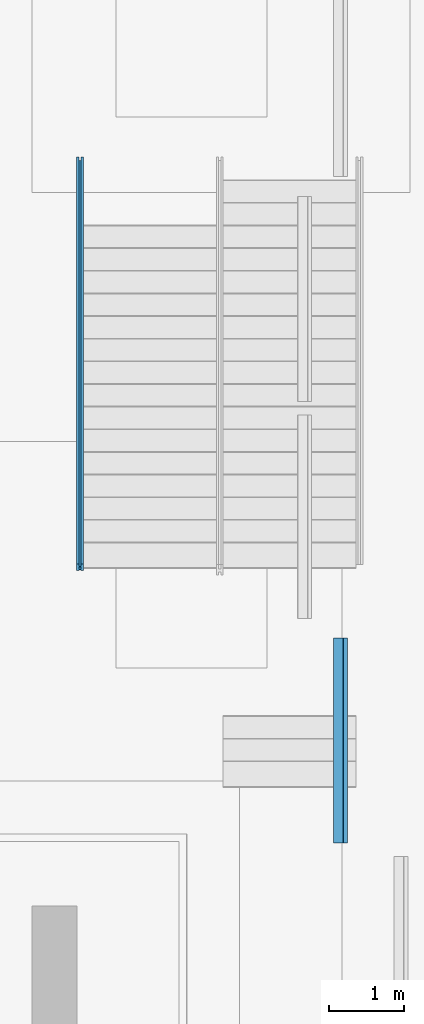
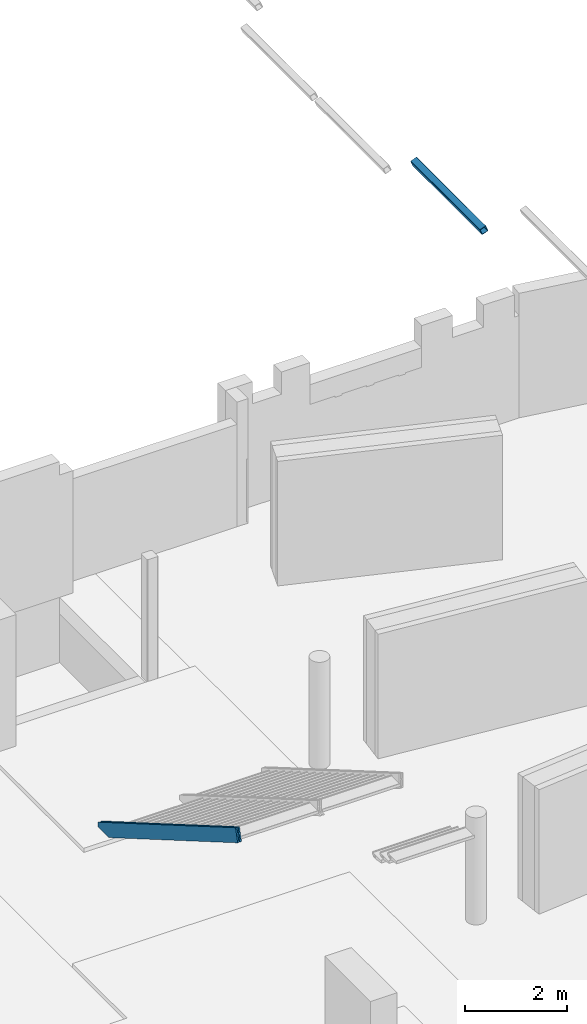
# One storey, part 23 of 42: 2 beams.
"""IFC2X3 building model written with IfcOpenShell, lengths in millimetres."""

from ifc_helpers import new_model, entity, si_unit, converted_unit, derived_unit, direction, frame, frame_2d, origin, place, context, subcontext, project, spatial, polyline, circle_curve, parameter, trimmed, segment, composite_curve, rectangle, outline, extrude, clip, halfspace, bounded_halfspace, source, transform, mapped, material, type_object, type_shapes, element, save


model = new_model("IFC2X3")

# Units and contexts
model_context = context("Model", 3, precision=0.01, world=origin(), true_north=direction((6.12303176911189e-17, 1.0)))
body_context = subcontext(model_context, "Body", "Model", "MODEL_VIEW")
ifc_project = project(units=[si_unit("LENGTHUNIT", "METRE", prefix="MILLI"), si_unit("AREAUNIT", "SQUARE_METRE", prefix="MILLI"), si_unit("VOLUMEUNIT", "CUBIC_METRE"), converted_unit("PLANEANGLEUNIT", "DEGREE", entity("IfcRatioMeasure", 0.0174532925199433), si_unit("PLANEANGLEUNIT", "RADIAN"), dimensions=[0, 0, 0, 0, 0, 0, 0]), si_unit("MASSUNIT", "GRAM", prefix="KILO"), derived_unit("MASSDENSITYUNIT", [(si_unit("MASSUNIT", "GRAM", prefix="KILO"), 1), (si_unit("LENGTHUNIT", "METRE"), -3)]), derived_unit("MOMENTOFINERTIAUNIT", [(si_unit("LENGTHUNIT", "METRE"), 4)]), si_unit("TIMEUNIT", "SECOND"), si_unit("FREQUENCYUNIT", "HERTZ"), si_unit("THERMODYNAMICTEMPERATUREUNIT", "DEGREE_CELSIUS"), derived_unit("THERMALTRANSMITTANCEUNIT", [(si_unit("MASSUNIT", "GRAM", prefix="KILO"), 1), (si_unit("THERMODYNAMICTEMPERATUREUNIT", "KELVIN"), -1), (si_unit("TIMEUNIT", "SECOND"), -3)]), derived_unit("VOLUMETRICFLOWRATEUNIT", [(si_unit("LENGTHUNIT", "METRE"), 3), (si_unit("TIMEUNIT", "SECOND"), -1)]), si_unit("ELECTRICCURRENTUNIT", "AMPERE"), si_unit("ELECTRICVOLTAGEUNIT", "VOLT"), si_unit("POWERUNIT", "WATT"), si_unit("FORCEUNIT", "NEWTON", prefix="KILO"), si_unit("ILLUMINANCEUNIT", "LUX"), si_unit("LUMINOUSFLUXUNIT", "LUMEN"), si_unit("LUMINOUSINTENSITYUNIT", "CANDELA"), derived_unit("USERDEFINED", [(si_unit("MASSUNIT", "GRAM", prefix="KILO"), -1), (si_unit("LENGTHUNIT", "METRE"), -2), (si_unit("TIMEUNIT", "SECOND"), 3), (si_unit("LUMINOUSFLUXUNIT", "LUMEN"), 1)]), derived_unit("LINEARVELOCITYUNIT", [(si_unit("LENGTHUNIT", "METRE"), 1), (si_unit("TIMEUNIT", "SECOND"), -1)]), si_unit("PRESSUREUNIT", "PASCAL"), derived_unit("USERDEFINED", [(si_unit("LENGTHUNIT", "METRE"), -2), (si_unit("MASSUNIT", "GRAM", prefix="KILO"), 1), (si_unit("TIMEUNIT", "SECOND"), -2)]), derived_unit("LINEARFORCEUNIT", [(si_unit("MASSUNIT", "GRAM", prefix="KILO"), 1), (si_unit("LENGTHUNIT", "METRE"), 1), (si_unit("TIMEUNIT", "SECOND"), -2), (si_unit("LENGTHUNIT", "METRE"), -1)]), derived_unit("PLANARFORCEUNIT", [(si_unit("MASSUNIT", "GRAM", prefix="KILO"), 1), (si_unit("LENGTHUNIT", "METRE"), 1), (si_unit("TIMEUNIT", "SECOND"), -2), (si_unit("LENGTHUNIT", "METRE"), -2)])], contexts=[model_context])

# Site, building, storey
site_placement = place(None, origin())
site = spatial("IfcSite", under=ifc_project, at=site_placement, Name="Theater aan de Parade", CompositionType="ELEMENT")
building_placement = place(site_placement, origin())
building = spatial("IfcBuilding", under=site, at=building_placement, Name="Theater aan de Parade", CompositionType="ELEMENT")
storey_placement = place(building_placement, frame((0.0, 0.0, -3300.0)))
storey = spatial("IfcBuildingStorey", under=building, at=storey_placement, Name="-1 kelder", CompositionType="ELEMENT", Elevation=-3300.0)

# Beams
ifc_material = material(Name="00_PBT_MAT_staal_S355")
beam_type_1 = type_object("IfcBeamType", Name="28_PBT_SF_staal_trapboom_glas:trapboom", PredefinedType="BEAM", material=ifc_material)
shared_shape = source(origin(), body_context, "Body", "Clipping", [
    clip(clip(extrude(rectangle(XDim=19.9999999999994, YDim=30.0000000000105, at=frame_2d((3.89732690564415e-12, 8.66329230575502e-12), x_axis=(1.0, 0.0))), frame((37491.8281932, 35434.1848212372, -3228.64474830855), z_axis=(0.0, -0.864474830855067, 0.502676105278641), x_axis=(0.0, -0.502676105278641, -0.864474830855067)), (0.0, 0.0, 1.0), 5928.67824857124), halfspace(frame((46011.8281932, 35779.080900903, -3220.0), z_axis=(0.0, 0.0, -1.0), x_axis=(-1.0, 0.0, 0.0)), False)), halfspace(frame((39781.7063235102, 32154.8185242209, 6549.86557927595), z_axis=(0.0, -0.965156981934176, 0.261671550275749), x_axis=(0.0, 0.261671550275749, 0.965156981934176)), False)),
    clip(clip(clip(extrude(rectangle(XDim=309.999999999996, YDim=30.0000000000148, at=frame_2d((-2.16626716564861e-12, 2.50111042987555e-12), x_axis=(0.0, 1.0))), frame((37461.8281932, 35751.0093632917, -3268.27589271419), z_axis=(0.0, -0.864474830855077, 0.502676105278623), x_axis=(1.0, 0.0, 0.0)), (0.0, 0.0, 1.0), 6294.87310159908), halfspace(frame((39781.7063235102, 32154.8185242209, 6549.86557927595), z_axis=(0.0, -0.965156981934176, 0.261671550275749), x_axis=(0.0, 0.261671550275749, 0.965156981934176)), False)), bounded_halfspace(frame((46011.8281932, 35779.080900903, -3220.0), z_axis=(0.0, 0.0, -1.0), x_axis=(-1.0, 0.0, 0.0)), False, frame((37461.8281932, 35751.0093632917, -3268.27589271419), z_axis=(0.0, -0.864474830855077, 0.502676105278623), x_axis=(1.0, 0.0, 0.0)), polyline([(-15.0, 55.844185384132), (15.0, 55.844185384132), (15.0, -155.0), (-15.0, -155.0), (-15.0, 55.844185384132)]))), bounded_halfspace(frame((46011.8281932, 35779.080900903, -1469.07784659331), z_axis=(0.0, 1.0, 0.0), x_axis=(-1.0, 0.0, 0.0)), False, frame((37461.8281932, 35751.0093632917, -3268.27589271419), z_axis=(0.0, -0.864474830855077, 0.502676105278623), x_axis=(1.0, 0.0, 0.0)), polyline([(15.0, 55.844185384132), (-15.0, 55.844185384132), (-15.0, 155.0), (15.0, 155.0), (15.0, 55.844185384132)]))),
    clip(clip(extrude(rectangle(XDim=19.9999999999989, YDim=30.0000000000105, at=frame_2d((2.25863772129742e-12, 8.66329230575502e-12), x_axis=(1.0, 0.0))), frame((37491.8281932, 35732.5877061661, -3228.64474830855), z_axis=(0.0, -0.86447483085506, 0.502676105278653), x_axis=(0.0, -0.502676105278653, -0.86447483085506)), (0.0, 0.0, 1.0), 6226.85468832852), halfspace(frame((46011.8281932, 35779.080900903, -3220.0), z_axis=(0.0, 0.0, -1.0), x_axis=(-1.0, 0.0, 0.0)), False)), halfspace(frame((39781.7063235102, 32154.8185242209, 6549.86557927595), z_axis=(0.0, -0.965156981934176, 0.261671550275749), x_axis=(0.0, 0.261671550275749, 0.965156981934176)), False)),
    clip(clip(clip(extrude(rectangle(XDim=309.999999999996, YDim=30.0000000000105, at=frame_2d((0.0, 2.48689957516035e-12), x_axis=(0.0, 1.0))), frame((37521.8281932, 35751.0093632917, -3268.27589271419), z_axis=(0.0, -0.864474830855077, 0.502676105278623), x_axis=(1.0, 0.0, 0.0)), (0.0, 0.0, 1.0), 6294.87310159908), halfspace(frame((39781.7063235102, 32154.8185242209, 6549.86557927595), z_axis=(0.0, -0.965156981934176, 0.261671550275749), x_axis=(0.0, 0.261671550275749, 0.965156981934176)), False)), bounded_halfspace(frame((46011.8281932, 35779.080900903, -3220.0), z_axis=(0.0, 0.0, -1.0), x_axis=(-1.0, 0.0, 0.0)), False, frame((37521.8281932, 35751.0093632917, -3268.27589271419), z_axis=(0.0, -0.864474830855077, 0.502676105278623), x_axis=(1.0, 0.0, 0.0)), polyline([(-15.0, 55.8441853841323), (15.0, 55.8441853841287), (15.0, -155.0), (-15.0, -155.0), (-15.0, 55.8441853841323)]))), bounded_halfspace(frame((46011.8281932, 35779.080900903, -1469.07784659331), z_axis=(0.0, 1.0, 0.0), x_axis=(-1.0, 0.0, 0.0)), False, frame((37521.8281932, 35751.0093632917, -3268.27589271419), z_axis=(0.0, -0.864474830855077, 0.502676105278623), x_axis=(1.0, 0.0, 0.0)), polyline([(15.0, 55.8441853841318), (-15.0, 55.8441853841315), (-15.0, 155.0), (15.0, 155.0), (15.0, 55.8441853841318)]))),
])
type_shapes(beam_type_1, [shared_shape])
beam_1_placement = place(storey_placement, frame((0.0, 0.0, 3300.0)))
element("IfcBeam", 1, at=beam_1_placement, inside=storey, type_object=beam_type_1, material=ifc_material, Name="28_PBT_SF_staal_trapboom_glas:trapboom", ObjectType="28_PBT_SF_staal_trapboom_glas:trapboom", context=body_context, shape_type="MappedRepresentation", body=[
    mapped(shared_shape, transform((0.0, 0.0, 0.0), scale=1.0)),
])
beam_type_2 = type_object("IfcBeamType", Name="28_PBT_SF_staal_koker:S355_K200x200x10", PredefinedType="NOTDEFINED")
beam_2_placement = place(storey_placement, frame((40830.526903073, 29407.9879914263, 18926.1077881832), z_axis=(0.0, 0.0, 1.0), x_axis=(0.0, -1.0, 0.0)))
element("IfcBeam", 2, at=beam_2_placement, inside=storey, type_object=beam_type_2, material=ifc_material, Name="28_PBT_SF_staal_koker:S355_K200x200x10", ObjectType="28_PBT_SF_staal_koker:S355_K200x200x10", context=body_context, shape_type="SweptSolid", body=[
    extrude(outline(composite_curve([segment(polyline([(-60.0, -75.0), (60.0, -75.0)]), True, "CONTINUOUS"), segment(trimmed(circle_curve(frame_2d((60.0, -60.0), x_axis=(0.0, 1.0)), 15.0), [parameter(180.0)], [parameter(270.0)], True, "PARAMETER"), True, "CONTINUOUS"), segment(polyline([(75.0, -60.0), (75.0, 60.0)]), True, "CONTINUOUS"), segment(trimmed(circle_curve(frame_2d((60.0, 60.0), x_axis=(0.0, 1.0)), 15.0), [parameter(270.0)], [parameter(360.0)], True, "PARAMETER"), True, "CONTINUOUS"), segment(polyline([(60.0, 75.0), (-60.0, 75.0)]), True, "CONTINUOUS"), segment(trimmed(circle_curve(frame_2d((-60.0, 60.0), x_axis=(0.0, 1.0)), 15.0), [parameter(0.0)], [parameter(90.0000000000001)], True, "PARAMETER"), True, "CONTINUOUS"), segment(polyline([(-75.0, 60.0), (-75.0, -60.0)]), True, "CONTINUOUS"), segment(trimmed(circle_curve(frame_2d((-60.0, -60.0), x_axis=(0.0, 1.0)), 15.0), [parameter(90.0)], [parameter(180.0)], True, "PARAMETER"), True, "CONTINUOUS")], self_intersect=False), holes=[composite_curve([segment(polyline([(65.0, 55.0), (65.0, -55.0)]), True, "CONTINUOUS"), segment(trimmed(circle_curve(frame_2d((55.0, -55.0), x_axis=(0.0, 1.0)), 10.0), [parameter(180.0)], [parameter(270.0)], True, "PARAMETER"), False, "CONTINUOUS"), segment(polyline([(55.0, -65.0), (-55.0, -65.0)]), True, "CONTINUOUS"), segment(trimmed(circle_curve(frame_2d((-55.0, -55.0), x_axis=(0.0, 1.0)), 10.0), [parameter(90.0)], [parameter(180.0)], True, "PARAMETER"), False, "CONTINUOUS"), segment(polyline([(-65.0, -55.0), (-65.0, 55.0)]), True, "CONTINUOUS"), segment(trimmed(circle_curve(frame_2d((-55.0, 55.0), x_axis=(0.0, 1.0)), 10.0), [parameter(4.07110999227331e-13)], [parameter(90.0000000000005)], True, "PARAMETER"), False, "CONTINUOUS"), segment(polyline([(-55.0, 65.0), (55.0, 65.0)]), True, "CONTINUOUS"), segment(trimmed(circle_curve(frame_2d((55.0, 55.0), x_axis=(0.0, 1.0)), 10.0), [parameter(270.0)], [parameter(0.0)], True, "PARAMETER"), False, "CONTINUOUS")], self_intersect=False)]), frame((0.0, 108.975369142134, -279.507368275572), z_axis=(1.0, 0.0, 0.0), x_axis=(0.0, -0.363251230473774, 0.931691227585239)), (0.0, 0.0, 1.0), 2713.74999999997),
])

save(model, "model.ifc")
